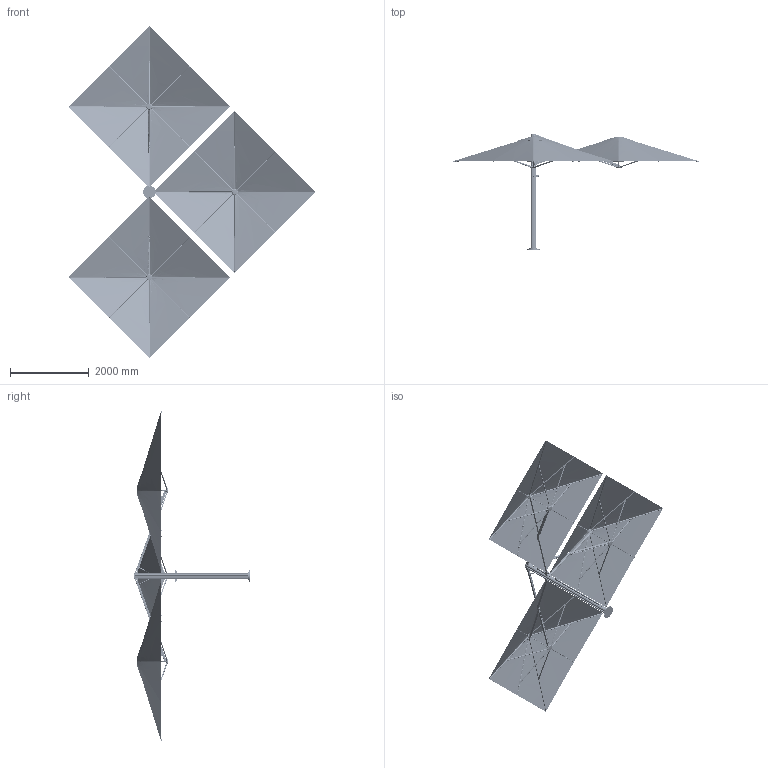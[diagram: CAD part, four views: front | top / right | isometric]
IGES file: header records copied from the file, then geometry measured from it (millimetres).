
Start section: SolidWorks IGES file using analytic representation for surfaces
Global section: file name: S:\RESEARCH and DEVELOPMENT\UnitySerenity Simple CAD Models\1. Export CAD\IGES Files\Unity 3M Square Trio.IGS; native system: SolidWorks 2017; preprocessor: SolidWorks 2017; author: Peter; date: 200619.112047; units: millimetre
Bounding box: 6248.35 x 2932.5 x 8412.11 mm (x, y, z)
Surface area: 68276990.3 mm2 (no closed solid volume)
Topology: 0 solids, 0 shells, 5459 faces, 73548 edges, 73485 vertices
Faces by surface type: bspline 2970, revolution 2489
